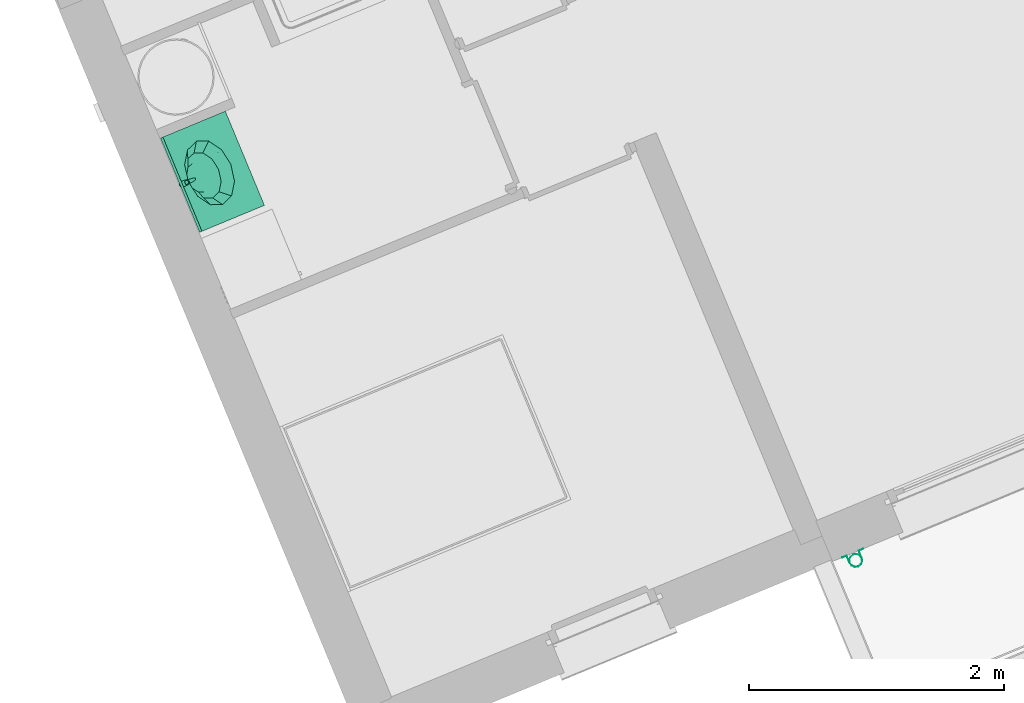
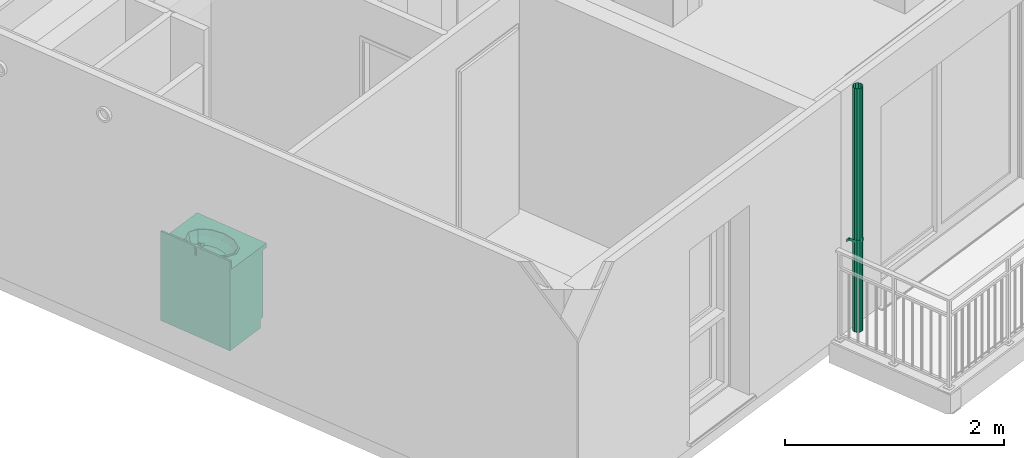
# One storey, part 65 of 90: 2 flow terminals.
"""IFC2X3 building model written with IfcOpenShell, lengths in metres."""

from ifc_helpers import new_model, entity, si_unit, converted_unit, derived_unit, money_unit, direction, frame, origin_with_axes, place, context, subcontext, project, spatial, open_shell, faceted_brep, surface_model, source, transform, mapped, type_object, element, save


model = new_model("IFC2X3")

# Units and contexts
model_context = context("Model", 3, precision=1e-05, world=origin_with_axes(), true_north=direction((0.0, 1.0)))
body_context = subcontext(model_context, "Body", "Model", "MODEL_VIEW")
ifc_project = project(units=[si_unit("LENGTHUNIT", "METRE"), si_unit("AREAUNIT", "SQUARE_METRE"), si_unit("VOLUMEUNIT", "CUBIC_METRE"), converted_unit("PLANEANGLEUNIT", "DEGREE", entity("IfcPlaneAngleMeasure", 0.0174532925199), si_unit("PLANEANGLEUNIT", "RADIAN"), dimensions=[0, 0, 0, 0, 0, 0, 0]), si_unit("SOLIDANGLEUNIT", "STERADIAN"), money_unit("EUR"), converted_unit("TIMEUNIT", "Year", entity("IfcTimeMeasure", 31556926.0), si_unit("TIMEUNIT", "SECOND"), dimensions=[0, 0, 1, 0, 0, 0, 0]), si_unit("MASSUNIT", "GRAM", prefix="KILO"), si_unit("THERMODYNAMICTEMPERATUREUNIT", "DEGREE_CELSIUS"), si_unit("LUMINOUSINTENSITYUNIT", "LUMEN"), si_unit("ENERGYUNIT", "JOULE", prefix="MEGA"), derived_unit("THERMALCONDUCTANCEUNIT", [(si_unit("POWERUNIT", "WATT"), 1), (si_unit("LENGTHUNIT", "METRE"), -1), (si_unit("THERMODYNAMICTEMPERATUREUNIT", "KELVIN"), -1)]), derived_unit("SPECIFICHEATCAPACITYUNIT", [(si_unit("ENERGYUNIT", "JOULE"), 1), (si_unit("MASSUNIT", "GRAM", prefix="KILO"), -1), (si_unit("THERMODYNAMICTEMPERATUREUNIT", "KELVIN"), -1)]), derived_unit("MASSDENSITYUNIT", [(si_unit("MASSUNIT", "GRAM", prefix="KILO"), 1), (si_unit("VOLUMEUNIT", "CUBIC_METRE"), -1)])], contexts=[model_context])

# Site, building, storey
site_placement = place(None, origin_with_axes())
site = spatial("IfcSite", under=ifc_project, at=site_placement, Name="Site", CompositionType="ELEMENT")
building_placement = place(site_placement, origin_with_axes())
building = spatial("IfcBuilding", under=site, at=building_placement, Name="Bâtiment", CompositionType="ELEMENT")
storey_placement = place(building_placement, frame((0.0, 0.0, 2.72), z_axis=(0.0, 0.0, 1.0), x_axis=(1.0, 0.0, 0.0)))
storey = spatial("IfcBuildingStorey", under=building, at=storey_placement, Name="R+1", CompositionType="ELEMENT", Elevation=2.72)

# Flow terminals
sanitary_terminal_type = type_object("IfcSanitaryTerminalType", Name="Lavabo sur meuble 23", PredefinedType="NOTDEFINED")
shared_shape_1 = source(origin_with_axes(), body_context, "Body", "SurfaceModel", [
    faceted_brep([(0.0, 0.09, 0.0), (0.8, 0.09, 0.0), (0.8, 0.09, 0.1), (0.0, 0.09, 0.1), (0.0, 0.55, 0.0), (0.8, 0.55, 0.0), (0.8, 0.55, 0.1), (0.0, 0.55, 0.1)], [[[0, 1, 2, 3]], [[0, 4, 5, 1]], [[1, 5, 6, 2]], [[3, 2, 6, 7]], [[4, 0, 3, 7]], [[5, 4, 7, 6]]]),
    faceted_brep([(0.0, 0.07, 0.1), (0.02, 0.07, 0.1), (0.02, 0.07, 0.12), (0.0, 0.07, 0.12), (0.0, 0.55, 0.1), (0.02, 0.55, 0.1), (0.78, 0.55, 0.1), (0.8, 0.55, 0.1), (0.8, 0.07, 0.1), (0.78, 0.07, 0.1), (0.78, 0.07, 0.12), (0.8, 0.07, 0.12), (0.8, 0.55, 0.12), (0.78, 0.55, 0.12), (0.02, 0.55, 0.12), (0.0, 0.55, 0.12)], [[[0, 1, 2, 3]], [[0, 4, 5, 6, 7, 8, 9, 1]], [[1, 9, 10, 2]], [[3, 2, 10, 11, 12, 13, 14, 15]], [[4, 0, 3, 15]], [[5, 4, 15, 14]], [[6, 5, 14, 13]], [[7, 6, 13, 12]], [[8, 7, 12, 11]], [[9, 8, 11, 10]]]),
    faceted_brep([(0.0, 0.07, 0.12), (0.02, 0.07, 0.12), (0.02, 0.07, 0.85), (0.0, 0.07, 0.85), (0.0, 0.55, 0.12), (0.8, 0.55, 0.12), (0.8, 0.07, 0.12), (0.78, 0.07, 0.12), (0.78, 0.53, 0.12), (0.02, 0.53, 0.12), (0.02, 0.53, 0.85), (0.78, 0.53, 0.85), (0.78, 0.07, 0.85), (0.8, 0.07, 0.85), (0.8, 0.55, 0.85), (0.0, 0.55, 0.85)], [[[0, 1, 2, 3]], [[0, 4, 5, 6, 7, 8, 9, 1]], [[1, 9, 10, 2]], [[3, 2, 10, 11, 12, 13, 14, 15]], [[4, 0, 3, 15]], [[5, 4, 15, 14]], [[6, 5, 14, 13]], [[7, 6, 13, 12]], [[8, 7, 12, 11]], [[9, 8, 11, 10]]]),
    faceted_brep([(0.78, 0.07, 0.323333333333), (0.78, 0.53, 0.323333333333), (0.78, 0.53, 0.343333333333), (0.78, 0.07, 0.343333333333), (0.02, 0.07, 0.323333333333), (0.02, 0.53, 0.323333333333), (0.02, 0.53, 0.343333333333), (0.02, 0.07, 0.343333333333)], [[[0, 1, 2, 3]], [[0, 4, 5, 1]], [[1, 5, 6, 2]], [[3, 2, 6, 7]], [[4, 0, 3, 7]], [[5, 4, 7, 6]]]),
    faceted_brep([(0.78, 0.07, 0.566666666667), (0.78, 0.53, 0.566666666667), (0.78, 0.53, 0.586666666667), (0.78, 0.07, 0.586666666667), (0.02, 0.07, 0.566666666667), (0.02, 0.53, 0.566666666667), (0.02, 0.53, 0.586666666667), (0.02, 0.07, 0.586666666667)], [[[0, 1, 2, 3]], [[0, 4, 5, 1]], [[1, 5, 6, 2]], [[3, 2, 6, 7]], [[4, 0, 3, 7]], [[5, 4, 7, 6]]]),
    faceted_brep([(0.0, 0.55, 0.85), (0.8, 0.55, 0.85), (0.8, 0.0, 0.85), (0.0, 0.0, 0.85), (0.535, 0.144115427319, 0.85), (0.633826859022, 0.21, 0.85), (0.67, 0.3, 0.85), (0.633826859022, 0.39, 0.85), (0.535, 0.455884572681, 0.85), (0.4, 0.48, 0.85), (0.265, 0.455884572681, 0.85), (0.166173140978, 0.39, 0.85), (0.13, 0.3, 0.85), (0.166173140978, 0.21, 0.85), (0.265, 0.144115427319, 0.85), (0.4, 0.12, 0.85), (0.0, 0.55, 0.9), (0.8, 0.55, 0.9), (0.8, 0.0, 0.9), (0.0, 0.0, 0.9), (0.535, 0.144115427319, 0.9), (0.633826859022, 0.21, 0.9), (0.67, 0.3, 0.9), (0.633826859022, 0.39, 0.9), (0.535, 0.455884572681, 0.9), (0.4, 0.48, 0.9), (0.265, 0.455884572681, 0.9), (0.166173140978, 0.39, 0.9), (0.13, 0.3, 0.9), (0.166173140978, 0.21, 0.9), (0.265, 0.144115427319, 0.9), (0.4, 0.12, 0.9)], [[[0, 1, 2, 3], [4, 5, 6, 7, 8, 9, 10, 11, 12, 13, 14, 15]], [[0, 16, 17, 1]], [[1, 17, 18, 2]], [[2, 18, 19, 3]], [[3, 19, 16, 0]], [[20, 21, 5, 4]], [[21, 22, 6, 5]], [[22, 23, 7, 6]], [[23, 24, 8, 7]], [[24, 25, 9, 8]], [[25, 26, 10, 9]], [[26, 27, 11, 10]], [[27, 28, 12, 11]], [[28, 29, 13, 12]], [[29, 30, 14, 13]], [[30, 31, 15, 14]], [[31, 20, 4, 15]], [[18, 17, 16, 19], [24, 23, 22, 21, 20, 31, 30, 29, 28, 27, 26, 25]]]),
    faceted_brep([(0.0, 0.53, 0.9), (0.8, 0.53, 0.9), (0.8, 0.53, 1.0), (0.0, 0.53, 1.0), (0.0, 0.55, 0.9), (0.8, 0.55, 0.9), (0.8, 0.55, 1.0), (0.0, 0.55, 1.0)], [[[0, 1, 2, 3]], [[0, 4, 5, 1]], [[1, 5, 6, 2]], [[3, 2, 6, 7]], [[4, 0, 3, 7]], [[5, 4, 7, 6]]]),
    faceted_brep([(0.689, 0.3, 0.905), (0.689, 0.3, 0.9), (0.650281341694, 0.396691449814, 0.9), (0.650281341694, 0.396691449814, 0.905), (0.650281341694, 0.203308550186, 0.905), (0.650281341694, 0.203308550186, 0.9), (0.5445, 0.132525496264, 0.9), (0.4, 0.106617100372, 0.9), (0.2555, 0.132525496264, 0.9), (0.149718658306, 0.203308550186, 0.9), (0.111, 0.3, 0.9), (0.149718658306, 0.396691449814, 0.9), (0.2555, 0.467474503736, 0.9), (0.4, 0.493382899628, 0.9), (0.5445, 0.467474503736, 0.9), (0.669, 0.3, 0.9), (0.632960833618, 0.39, 0.9), (0.5345, 0.455884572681, 0.9), (0.4, 0.48, 0.9), (0.2655, 0.455884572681, 0.9), (0.167039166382, 0.39, 0.9), (0.131, 0.3, 0.9), (0.167039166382, 0.21, 0.9), (0.2655, 0.144115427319, 0.9), (0.4, 0.12, 0.9), (0.5345, 0.144115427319, 0.9), (0.632960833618, 0.21, 0.9), (0.5445, 0.467474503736, 0.905), (0.4, 0.493382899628, 0.905), (0.2555, 0.467474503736, 0.905), (0.149718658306, 0.396691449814, 0.905), (0.111, 0.3, 0.905), (0.149718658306, 0.203308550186, 0.905), (0.2555, 0.132525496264, 0.905), (0.4, 0.106617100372, 0.905), (0.5445, 0.132525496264, 0.905), (0.669, 0.3, 0.905), (0.632960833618, 0.21, 0.905), (0.5345, 0.144115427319, 0.905), (0.4, 0.12, 0.905), (0.2655, 0.144115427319, 0.905), (0.167039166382, 0.21, 0.905), (0.131, 0.3, 0.905), (0.167039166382, 0.39, 0.905), (0.2655, 0.455884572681, 0.905), (0.4, 0.48, 0.905), (0.5345, 0.455884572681, 0.905), (0.632960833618, 0.39, 0.905)], [[[0, 1, 2, 3]], [[4, 5, 1, 0]], [[1, 5, 6, 7, 8, 9, 10, 11, 12, 13, 14, 2], [15, 16, 17, 18, 19, 20, 21, 22, 23, 24, 25, 26]], [[3, 2, 14, 27]], [[0, 3, 27, 28, 29, 30, 31, 32, 33, 34, 35, 4], [36, 37, 38, 39, 40, 41, 42, 43, 44, 45, 46, 47]], [[35, 6, 5, 4]], [[34, 7, 6, 35]], [[33, 8, 7, 34]], [[32, 9, 8, 33]], [[31, 10, 9, 32]], [[30, 11, 10, 31]], [[29, 12, 11, 30]], [[28, 13, 12, 29]], [[27, 14, 13, 28]], [[47, 16, 15, 36]], [[46, 17, 16, 47]], [[45, 18, 17, 46]], [[44, 19, 18, 45]], [[43, 20, 19, 44]], [[42, 21, 20, 43]], [[41, 22, 21, 42]], [[40, 23, 22, 41]], [[39, 24, 23, 40]], [[38, 25, 24, 39]], [[37, 26, 25, 38]], [[36, 15, 26, 37]]]),
    surface_model("IfcShellBasedSurfaceModel", [(0.4, 0.48, 0.9), (0.4, 0.48, 0.848), (0.52105, 0.458296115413, 0.848), (0.5345, 0.455884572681, 0.9), (0.2655, 0.455884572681, 0.9), (0.27895, 0.458296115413, 0.848), (0.609664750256, 0.399, 0.848), (0.632960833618, 0.39, 0.9), (0.167039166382, 0.39, 0.9), (0.190335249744, 0.399, 0.848), (0.6421, 0.318, 0.848), (0.669, 0.3, 0.9), (0.131, 0.3, 0.9), (0.1579, 0.318, 0.848), (0.609664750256, 0.237, 0.848), (0.632960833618, 0.21, 0.9), (0.167039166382, 0.21, 0.9), (0.190335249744, 0.237, 0.848), (0.52105, 0.177703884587, 0.848), (0.5345, 0.144115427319, 0.9), (0.2655, 0.144115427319, 0.9), (0.27895, 0.177703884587, 0.848), (0.4, 0.156, 0.848), (0.4, 0.12, 0.9)], [open_shell([[[0, 1, 2, 3]], [[4, 5, 1, 0]], [[3, 2, 6, 7]], [[8, 9, 5, 4]], [[7, 6, 10, 11]], [[12, 13, 9, 8]], [[11, 10, 14, 15]], [[16, 17, 13, 12]], [[15, 14, 18, 19]], [[20, 21, 17, 16]], [[19, 18, 22, 23]], [[23, 22, 21, 20]]])]),
    surface_model("IfcShellBasedSurfaceModel", [(0.4, 0.48, 0.848), (0.4, 0.48, 0.796), (0.4956295, 0.462853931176, 0.796), (0.52105, 0.458296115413, 0.848), (0.27895, 0.458296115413, 0.848), (0.3043705, 0.462853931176, 0.796), (0.565635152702, 0.41601, 0.796), (0.609664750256, 0.399, 0.848), (0.190335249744, 0.399, 0.848), (0.234364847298, 0.41601, 0.796), (0.591259, 0.35202, 0.796), (0.6421, 0.318, 0.848), (0.1579, 0.318, 0.848), (0.208741, 0.35202, 0.796), (0.565635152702, 0.28803, 0.796), (0.609664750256, 0.237, 0.848), (0.190335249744, 0.237, 0.848), (0.234364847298, 0.28803, 0.796), (0.4956295, 0.241186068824, 0.796), (0.52105, 0.177703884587, 0.848), (0.27895, 0.177703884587, 0.848), (0.3043705, 0.241186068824, 0.796), (0.4, 0.22404, 0.796), (0.4, 0.156, 0.848)], [open_shell([[[0, 1, 2, 3]], [[4, 5, 1, 0]], [[3, 2, 6, 7]], [[8, 9, 5, 4]], [[7, 6, 10, 11]], [[12, 13, 9, 8]], [[11, 10, 14, 15]], [[16, 17, 13, 12]], [[15, 14, 18, 19]], [[20, 21, 17, 16]], [[19, 18, 22, 23]], [[23, 22, 21, 20]]])]),
    surface_model("IfcShellBasedSurfaceModel", [(0.4, 0.48, 0.796), (0.4, 0.48, 0.77), (0.460246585, 0.469197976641, 0.77), (0.4956295, 0.462853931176, 0.796), (0.3043705, 0.462853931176, 0.796), (0.339753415, 0.469197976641, 0.77), (0.504350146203, 0.4396863, 0.77), (0.565635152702, 0.41601, 0.796), (0.234364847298, 0.41601, 0.796), (0.295649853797, 0.4396863, 0.77), (0.52049317, 0.3993726, 0.77), (0.591259, 0.35202, 0.796), (0.208741, 0.35202, 0.796), (0.27950683, 0.3993726, 0.77), (0.504350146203, 0.3590589, 0.77), (0.565635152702, 0.28803, 0.796), (0.234364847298, 0.28803, 0.796), (0.295649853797, 0.3590589, 0.77), (0.460246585, 0.329547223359, 0.77), (0.4956295, 0.241186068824, 0.796), (0.3043705, 0.241186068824, 0.796), (0.339753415, 0.329547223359, 0.77), (0.4, 0.3187452, 0.77), (0.4, 0.22404, 0.796)], [open_shell([[[0, 1, 2, 3]], [[4, 5, 1, 0]], [[3, 2, 6, 7]], [[8, 9, 5, 4]], [[7, 6, 10, 11]], [[12, 13, 9, 8]], [[11, 10, 14, 15]], [[16, 17, 13, 12]], [[15, 14, 18, 19]], [[20, 21, 17, 16]], [[19, 18, 22, 23]], [[23, 22, 21, 20]]])]),
    surface_model("IfcShellBasedSurfaceModel", [(0.4, 0.48, 0.77), (0.415, 0.425353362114, 0.763), (0.460246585, 0.469197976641, 0.77), (0.4, 0.4293726, 0.763), (0.425980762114, 0.4143726, 0.763), (0.339753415, 0.469197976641, 0.77), (0.504350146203, 0.4396863, 0.77), (0.385, 0.425353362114, 0.763), (0.43, 0.3993726, 0.763), (0.295649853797, 0.4396863, 0.77), (0.52049317, 0.3993726, 0.77), (0.374019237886, 0.4143726, 0.763), (0.425980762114, 0.3843726, 0.763), (0.27950683, 0.3993726, 0.77), (0.504350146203, 0.3590589, 0.77), (0.37, 0.3993726, 0.763), (0.415, 0.373391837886, 0.763), (0.295649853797, 0.3590589, 0.77), (0.460246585, 0.329547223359, 0.77), (0.374019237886, 0.3843726, 0.763), (0.4, 0.3693726, 0.763), (0.339753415, 0.329547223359, 0.77), (0.4, 0.3187452, 0.77), (0.385, 0.373391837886, 0.763)], [open_shell([[[0, 1, 2]], [[0, 3, 1]], [[2, 1, 4]], [[5, 3, 0]], [[2, 4, 6]], [[5, 7, 3]], [[6, 4, 8]], [[9, 7, 5]], [[6, 8, 10]], [[9, 11, 7]], [[10, 8, 12]], [[13, 11, 9]], [[10, 12, 14]], [[13, 15, 11]], [[14, 12, 16]], [[17, 15, 13]], [[14, 16, 18]], [[17, 19, 15]], [[18, 16, 20]], [[21, 19, 17]], [[18, 20, 22]], [[21, 23, 19]], [[22, 20, 23]], [[22, 23, 21]]])]),
    surface_model("IfcShellBasedSurfaceModel", [(0.43, 0.3993726, 0.763), (0.43, 0.3993726, 0.758), (0.425980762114, 0.4143726, 0.758), (0.425980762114, 0.4143726, 0.763), (0.425980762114, 0.3843726, 0.763), (0.425980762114, 0.3843726, 0.758), (0.415, 0.373391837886, 0.758), (0.4, 0.3693726, 0.758), (0.385, 0.373391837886, 0.758), (0.374019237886, 0.3843726, 0.758), (0.37, 0.3993726, 0.758), (0.374019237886, 0.4143726, 0.758), (0.385, 0.425353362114, 0.758), (0.4, 0.4293726, 0.758), (0.415, 0.425353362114, 0.758), (0.415, 0.425353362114, 0.763), (0.415, 0.373391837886, 0.763), (0.4, 0.3693726, 0.763), (0.385, 0.373391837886, 0.763), (0.374019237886, 0.3843726, 0.763), (0.37, 0.3993726, 0.763), (0.374019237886, 0.4143726, 0.763), (0.385, 0.425353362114, 0.763), (0.4, 0.4293726, 0.763)], [open_shell([[[0, 1, 2, 3]], [[4, 5, 1, 0]], [[1, 5, 6, 7, 8, 9, 10, 11, 12, 13, 14, 2]], [[3, 2, 14, 15]], [[16, 6, 5, 4]], [[17, 7, 6, 16]], [[18, 8, 7, 17]], [[19, 9, 8, 18]], [[20, 10, 9, 19]], [[21, 11, 10, 20]], [[22, 12, 11, 21]], [[23, 13, 12, 22]], [[15, 14, 13, 23]]])]),
    faceted_brep([(0.4125, 0.554150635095, 0.9), (0.4, 0.5575, 0.9), (0.4, 0.553701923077, 0.975961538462), (0.410587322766, 0.550837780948, 0.976507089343), (0.421650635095, 0.545, 0.9), (0.425, 0.5325, 0.9), (0.421650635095, 0.52, 0.9), (0.4125, 0.510849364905, 0.9), (0.4, 0.5075, 0.9), (0.3875, 0.510849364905, 0.9), (0.378349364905, 0.52, 0.9), (0.375, 0.5325, 0.9), (0.378349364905, 0.545, 0.9), (0.3875, 0.554150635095, 0.9), (0.389412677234, 0.550837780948, 0.976507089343), (0.381726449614, 0.543050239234, 0.977990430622), (0.379, 0.5325, 0.98), (0.381899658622, 0.522049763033, 0.981990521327), (0.389585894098, 0.514462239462, 0.983435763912), (0.4, 0.511698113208, 0.983962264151), (0.410414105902, 0.514462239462, 0.983435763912), (0.418100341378, 0.522049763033, 0.981990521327), (0.421, 0.5325, 0.98), (0.418273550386, 0.543050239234, 0.977990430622)], [[[0, 1, 2, 3]], [[0, 4, 5, 6, 7, 8, 9, 10, 11, 12, 13, 1]], [[1, 13, 14, 2]], [[3, 2, 14, 15, 16, 17, 18, 19, 20, 21, 22, 23]], [[4, 0, 3, 23]], [[5, 4, 23, 22]], [[6, 5, 22, 21]], [[7, 6, 21, 20]], [[8, 7, 20, 19]], [[9, 8, 19, 18]], [[10, 9, 18, 17]], [[11, 10, 17, 16]], [[12, 11, 16, 15]], [[13, 12, 15, 14]]]),
    faceted_brep([(0.409, 0.4295, 0.935), (0.407794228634, 0.434, 0.935), (0.407794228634, 0.434, 0.945), (0.409, 0.4295, 0.945), (0.407794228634, 0.425, 0.935), (0.4045, 0.421705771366, 0.935), (0.4, 0.4205, 0.935), (0.3955, 0.421705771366, 0.935), (0.392205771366, 0.425, 0.935), (0.391, 0.4295, 0.935), (0.392205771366, 0.434, 0.935), (0.3955, 0.437294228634, 0.935), (0.4, 0.4385, 0.935), (0.4045, 0.437294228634, 0.935), (0.4045, 0.437294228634, 0.945), (0.4, 0.4385, 0.945), (0.3955, 0.437294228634, 0.945), (0.392205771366, 0.434, 0.945), (0.391, 0.4295, 0.945), (0.392205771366, 0.425, 0.945), (0.3955, 0.421705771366, 0.945), (0.4, 0.4205, 0.945), (0.4045, 0.421705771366, 0.945), (0.407794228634, 0.425, 0.945)], [[[0, 1, 2, 3]], [[0, 4, 5, 6, 7, 8, 9, 10, 11, 12, 13, 1]], [[1, 13, 14, 2]], [[3, 2, 14, 15, 16, 17, 18, 19, 20, 21, 22, 23]], [[4, 0, 3, 23]], [[5, 4, 23, 22]], [[6, 5, 22, 21]], [[7, 6, 21, 20]], [[8, 7, 20, 19]], [[9, 8, 19, 18]], [[10, 9, 18, 17]], [[11, 10, 17, 16]], [[12, 11, 16, 15]], [[13, 12, 15, 14]]]),
    faceted_brep([(0.387128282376, 0.552756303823, 0.96), (0.378272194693, 0.54269320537, 0.96), (0.3761946, 0.5294501, 0.96), (0.389088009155, 0.428111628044, 0.96), (0.390971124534, 0.423216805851, 0.96), (0.394906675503, 0.419750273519, 0.96), (0.400000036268, 0.41850003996, 0.96), (0.405093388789, 0.419750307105, 0.96), (0.409028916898, 0.423216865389, 0.96), (0.410912, 0.4281117, 0.96), (0.423805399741, 0.529450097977, 0.96), (0.421727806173, 0.542693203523, 0.96), (0.412871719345, 0.552756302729, 0.96), (0.40000000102, 0.556499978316, 0.96), (0.411, 0.551552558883, 0.96), (0.419052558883, 0.5435, 0.96), (0.422, 0.5325, 0.96), (0.419052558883, 0.5215, 0.96), (0.411, 0.513447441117, 0.96), (0.4, 0.5105, 0.96), (0.389, 0.513447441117, 0.96), (0.380947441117, 0.5215, 0.96), (0.378, 0.5325, 0.96), (0.380947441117, 0.5435, 0.96), (0.389, 0.551552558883, 0.96), (0.4, 0.5545, 0.96), (0.378272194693, 0.54269320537, 0.945), (0.387128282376, 0.552756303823, 0.945), (0.3761946, 0.5294501, 0.945), (0.389088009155, 0.428111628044, 0.945), (0.390971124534, 0.423216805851, 0.945), (0.394906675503, 0.419750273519, 0.945), (0.400000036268, 0.41850003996, 0.945), (0.405093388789, 0.419750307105, 0.945), (0.409028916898, 0.423216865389, 0.945), (0.410912, 0.4281117, 0.945), (0.423805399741, 0.529450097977, 0.945), (0.421727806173, 0.542693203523, 0.945), (0.412871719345, 0.552756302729, 0.945), (0.40000000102, 0.556499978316, 0.945), (0.411375, 0.552202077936, 0.945), (0.419702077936, 0.543875, 0.945), (0.42275, 0.5325, 0.945), (0.419702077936, 0.521125, 0.945), (0.411375, 0.512797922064, 0.945), (0.4, 0.50975, 0.945), (0.388625, 0.512797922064, 0.945), (0.380297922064, 0.521125, 0.945), (0.37725, 0.5325, 0.945), (0.380297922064, 0.543875, 0.945), (0.388625, 0.552202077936, 0.945), (0.4, 0.55525, 0.945)], [[[0, 1, 2, 3, 4, 5, 6, 7, 8, 9, 10, 11, 12, 13], [14, 15, 16, 17, 18, 19, 20, 21, 22, 23, 24, 25]], [[26, 1, 0, 27]], [[28, 2, 1, 26]], [[29, 3, 2, 28]], [[30, 4, 3, 29]], [[31, 5, 4, 30]], [[32, 6, 5, 31]], [[33, 7, 6, 32]], [[34, 8, 7, 33]], [[35, 9, 8, 34]], [[36, 10, 9, 35]], [[37, 11, 10, 36]], [[38, 12, 11, 37]], [[39, 13, 12, 38]], [[27, 0, 13, 39]], [[40, 41, 15, 14]], [[41, 42, 16, 15]], [[42, 43, 17, 16]], [[43, 44, 18, 17]], [[44, 45, 19, 18]], [[20, 19, 45, 46]], [[21, 20, 46, 47]], [[22, 21, 47, 48]], [[23, 22, 48, 49]], [[24, 23, 49, 50]], [[50, 51, 25, 24]], [[51, 40, 14, 25]], [[32, 31, 30, 29, 28, 26, 27, 39, 38, 37, 36, 35, 34, 33], [44, 43, 42, 41, 40, 51, 50, 49, 48, 47, 46, 45]]]),
    faceted_brep([(0.423893, 0.53080743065, 0.980322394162), (0.421296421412, 0.543274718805, 0.977947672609), (0.421296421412, 0.544023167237, 0.981877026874), (0.423893, 0.531555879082, 0.984251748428), (0.420945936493, 0.490663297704, 0.987968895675), (0.417663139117, 0.480985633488, 0.989812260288), (0.410061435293, 0.474036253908, 0.991135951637), (0.399999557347, 0.47151438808, 0.991616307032), (0.389937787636, 0.474036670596, 0.991135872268), (0.382336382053, 0.480986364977, 0.989812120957), (0.379054, 0.490664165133, 0.987968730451), (0.376106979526, 0.530807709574, 0.980322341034), (0.378703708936, 0.543274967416, 0.977947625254), (0.38752831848, 0.552591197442, 0.976173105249), (0.400000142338, 0.556031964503, 0.975517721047), (0.41247192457, 0.552591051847, 0.976173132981), (0.414, 0.506959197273, 0.984864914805), (0.386, 0.506959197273, 0.984864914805), (0.386, 0.492143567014, 0.987686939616), (0.387875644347, 0.485267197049, 0.988996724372), (0.393, 0.480233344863, 0.989955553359), (0.4, 0.478390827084, 0.990306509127), (0.407, 0.480233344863, 0.989955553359), (0.412124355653, 0.485267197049, 0.988996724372), (0.414, 0.492143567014, 0.987686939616), (0.41247192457, 0.553339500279, 0.980102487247), (0.400000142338, 0.556780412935, 0.979447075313), (0.38752831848, 0.553339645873, 0.980102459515), (0.378703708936, 0.544023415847, 0.98187697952), (0.376106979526, 0.531556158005, 0.984251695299), (0.379054, 0.491412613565, 0.991898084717), (0.382336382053, 0.481734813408, 0.993741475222), (0.389937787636, 0.474785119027, 0.995065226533), (0.399999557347, 0.472262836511, 0.995545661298), (0.410061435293, 0.47478470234, 0.995065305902), (0.417663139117, 0.48173408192, 0.993741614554), (0.420945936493, 0.491411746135, 0.991898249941), (0.414, 0.507707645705, 0.988794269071), (0.414, 0.492892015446, 0.991616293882), (0.412124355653, 0.486015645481, 0.992926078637), (0.407, 0.480981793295, 0.993884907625), (0.4, 0.479139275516, 0.994235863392), (0.393, 0.480981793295, 0.993884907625), (0.387875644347, 0.486015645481, 0.992926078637), (0.386, 0.492892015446, 0.991616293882), (0.386, 0.507707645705, 0.988794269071)], [[[0, 1, 2, 3]], [[0, 4, 5, 6, 7, 8, 9, 10, 11, 12, 13, 14, 15, 1], [16, 17, 18, 19, 20, 21, 22, 23, 24]], [[1, 15, 25, 2]], [[3, 2, 25, 26, 27, 28, 29, 30, 31, 32, 33, 34, 35, 36], [37, 38, 39, 40, 41, 42, 43, 44, 45]], [[4, 0, 3, 36]], [[5, 4, 36, 35]], [[6, 5, 35, 34]], [[7, 6, 34, 33]], [[8, 7, 33, 32]], [[9, 8, 32, 31]], [[10, 9, 31, 30]], [[11, 10, 30, 29]], [[12, 11, 29, 28]], [[13, 12, 28, 27]], [[14, 13, 27, 26]], [[15, 14, 26, 25]], [[17, 16, 37, 45]], [[18, 17, 45, 44]], [[19, 18, 44, 43]], [[20, 19, 43, 42]], [[21, 20, 42, 41]], [[22, 21, 41, 40]], [[23, 22, 40, 39]], [[24, 23, 39, 38]], [[16, 24, 38, 37]]]),
    faceted_brep([(0.0015, 0.07, 0.1015), (0.3985, 0.07, 0.1015), (0.3985, 0.05, 0.1015), (0.0015, 0.05, 0.1015), (0.0015, 0.07, 0.8485), (0.3985, 0.07, 0.8485), (0.3985, 0.05, 0.8485), (0.0015, 0.05, 0.8485)], [[[0, 1, 2, 3]], [[0, 4, 5, 1]], [[1, 5, 6, 2]], [[3, 2, 6, 7]], [[4, 0, 3, 7]], [[5, 4, 7, 6]]]),
    faceted_brep([(0.358892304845, 0.05, 0.7855), (0.3545, 0.05, 0.781107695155), (0.3485, 0.05, 0.7795), (0.3425, 0.05, 0.781107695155), (0.338107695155, 0.05, 0.7855), (0.3365, 0.05, 0.7915), (0.338107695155, 0.05, 0.7975), (0.3425, 0.05, 0.801892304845), (0.3485, 0.05, 0.8035), (0.3545, 0.05, 0.801892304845), (0.358892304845, 0.05, 0.7975), (0.3605, 0.05, 0.7915), (0.358892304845, 0.025, 0.7855), (0.3545, 0.025, 0.781107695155), (0.3485, 0.025, 0.7795), (0.3425, 0.025, 0.781107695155), (0.338107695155, 0.025, 0.7855), (0.3365, 0.025, 0.7915), (0.338107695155, 0.025, 0.7975), (0.3425, 0.025, 0.801892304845), (0.3485, 0.025, 0.8035), (0.3545, 0.025, 0.801892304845), (0.358892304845, 0.025, 0.7975), (0.3605, 0.025, 0.7915)], [[[0, 1, 2, 3, 4, 5, 6, 7, 8, 9, 10, 11]], [[1, 0, 12, 13]], [[2, 1, 13, 14]], [[3, 2, 14, 15]], [[4, 3, 15, 16]], [[5, 4, 16, 17]], [[6, 5, 17, 18]], [[7, 6, 18, 19]], [[8, 7, 19, 20]], [[9, 8, 20, 21]], [[10, 9, 21, 22]], [[11, 10, 22, 23]], [[0, 11, 23, 12]], [[12, 23, 22, 21, 20, 19, 18, 17, 16, 15, 14, 13]]]),
    faceted_brep([(0.7985, 0.07, 0.1015), (0.7985, 0.05, 0.1015), (0.4015, 0.05, 0.1015), (0.4015, 0.07, 0.1015), (0.7985, 0.07, 0.8485), (0.7985, 0.05, 0.8485), (0.4015, 0.05, 0.8485), (0.4015, 0.07, 0.8485)], [[[0, 1, 2, 3]], [[4, 5, 1, 0]], [[1, 5, 6, 2]], [[3, 2, 6, 7]], [[0, 3, 7, 4]], [[7, 6, 5, 4]]]),
    faceted_brep([(0.441107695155, 0.05, 0.7855), (0.4395, 0.05, 0.7915), (0.441107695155, 0.05, 0.7975), (0.4455, 0.05, 0.801892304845), (0.4515, 0.05, 0.8035), (0.4575, 0.05, 0.801892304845), (0.461892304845, 0.05, 0.7975), (0.4635, 0.05, 0.7915), (0.461892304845, 0.05, 0.7855), (0.4575, 0.05, 0.781107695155), (0.4515, 0.05, 0.7795), (0.4455, 0.05, 0.781107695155), (0.441107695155, 0.025, 0.7855), (0.4395, 0.025, 0.7915), (0.441107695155, 0.025, 0.7975), (0.4455, 0.025, 0.801892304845), (0.4515, 0.025, 0.8035), (0.4575, 0.025, 0.801892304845), (0.461892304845, 0.025, 0.7975), (0.4635, 0.025, 0.7915), (0.461892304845, 0.025, 0.7855), (0.4575, 0.025, 0.781107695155), (0.4515, 0.025, 0.7795), (0.4455, 0.025, 0.781107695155)], [[[0, 1, 2, 3, 4, 5, 6, 7, 8, 9, 10, 11]], [[0, 12, 13, 1]], [[1, 13, 14, 2]], [[2, 14, 15, 3]], [[3, 15, 16, 4]], [[4, 16, 17, 5]], [[5, 17, 18, 6]], [[6, 18, 19, 7]], [[7, 19, 20, 8]], [[8, 20, 21, 9]], [[9, 21, 22, 10]], [[10, 22, 23, 11]], [[11, 23, 12, 0]], [[12, 23, 22, 21, 20, 19, 18, 17, 16, 15, 14, 13]]]),
])
flow_terminal_1_placement = place(storey_placement, frame((-31.7928882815, -24.2861897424, 0.0), z_axis=(0.0, 0.0, 1.0), x_axis=(-0.38311254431, 0.923701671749, 0.0)))
element("IfcFlowTerminal", 1, at=flow_terminal_1_placement, inside=storey, type_object=sanitary_terminal_type, Name="MOB-002", ObjectType="SANITARY_TERMINAL", context=body_context, shape_type="MappedRepresentation", body=[
    mapped(shared_shape_1, transform((0.0, 0.0, 0.0))),
])
waste_terminal_type = type_object("IfcWasteTerminalType", Name="Tuyau descente 23", PredefinedType="GULLYTRAP")
shared_shape_2 = source(origin_with_axes(), body_context, "Body", "SurfaceModel", [
    surface_model("IfcShellBasedSurfaceModel", [(0.05, -0.0125, 2.7222918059), (0.0433012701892, -0.0375, 2.7222918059), (0.0433012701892, -0.0375, 0.0), (0.05, -0.0125, 0.0), (0.025, -0.0558012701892, 2.7222918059), (0.025, -0.0558012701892, 0.0), (0.0433012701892, 0.0125, 2.7222918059), (0.0433012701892, 0.0125, 0.0), (0.0, -0.0625, 2.7222918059), (0.0, -0.0625, 0.0), (0.025, 0.0308012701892, 2.7222918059), (0.025, 0.0308012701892, 0.0), (-0.025, -0.0558012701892, 2.7222918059), (-0.025, -0.0558012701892, 0.0), (0.0, 0.0375, 2.7222918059), (0.0, 0.0375, 0.0), (-0.0433012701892, -0.0375, 2.7222918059), (-0.0433012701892, -0.0375, 0.0), (-0.025, 0.0308012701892, 2.7222918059), (-0.025, 0.0308012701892, 0.0), (-0.05, -0.0125, 2.7222918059), (-0.05, -0.0125, 0.0), (-0.0433012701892, 0.0125, 2.7222918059), (-0.0433012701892, 0.0125, 0.0)], [open_shell([[[0, 1, 2, 3]], [[1, 4, 5, 2]], [[6, 0, 3, 7]], [[4, 8, 9, 5]], [[10, 6, 7, 11]], [[8, 12, 13, 9]], [[14, 10, 11, 15]], [[12, 16, 17, 13]], [[18, 14, 15, 19]], [[16, 20, 21, 17]], [[22, 18, 19, 23]], [[20, 22, 23, 21]]])]),
    faceted_brep([(-0.09, 0.0479, 1.0), (-0.052, 0.0479, 1.0), (-0.052, 0.0479, 1.03), (-0.09, 0.0479, 1.03), (-0.09, 0.0499, 1.0), (-0.0502, 0.0499, 1.0), (-0.0502, -0.0126, 1.0), (-0.04347447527, -0.0377, 1.0), (-0.0251, -0.05607447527, 1.0), (0.0, -0.0628, 1.0), (0.0251, -0.05607447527, 1.0), (0.04347447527, -0.0377, 1.0), (0.0502, -0.0126, 1.0), (0.0502, 0.0499, 1.0), (0.09, 0.0499, 1.0), (0.09, 0.0479, 1.0), (0.052, 0.0479, 1.0), (0.052, -0.0126, 1.0), (0.0450333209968, -0.0386, 1.0), (0.026, -0.0576333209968, 1.0), (0.0, -0.0646, 1.0), (-0.026, -0.0576333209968, 1.0), (-0.0450333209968, -0.0386, 1.0), (-0.052, -0.0126, 1.0), (-0.052, -0.0126, 1.03), (-0.0450333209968, -0.0386, 1.03), (-0.026, -0.0576333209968, 1.03), (0.0, -0.0646, 1.03), (0.026, -0.0576333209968, 1.03), (0.0450333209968, -0.0386, 1.03), (0.052, -0.0126, 1.03), (0.052, 0.0479, 1.03), (0.09, 0.0479, 1.03), (0.09, 0.0499, 1.03), (0.0502, 0.0499, 1.03), (0.0502, -0.0126, 1.03), (0.04347447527, -0.0377, 1.03), (0.0251, -0.05607447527, 1.03), (0.0, -0.0628, 1.03), (-0.0251, -0.05607447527, 1.03), (-0.04347447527, -0.0377, 1.03), (-0.0502, -0.0126, 1.03), (-0.0502, 0.0499, 1.03), (-0.09, 0.0499, 1.03)], [[[0, 1, 2, 3]], [[0, 4, 5, 6, 7, 8, 9, 10, 11, 12, 13, 14, 15, 16, 17, 18, 19, 20, 21, 22, 23, 1]], [[1, 23, 24, 2]], [[3, 2, 24, 25, 26, 27, 28, 29, 30, 31, 32, 33, 34, 35, 36, 37, 38, 39, 40, 41, 42, 43]], [[4, 0, 3, 43]], [[5, 4, 43, 42]], [[6, 5, 42, 41]], [[7, 6, 41, 40]], [[8, 7, 40, 39]], [[9, 8, 39, 38]], [[10, 9, 38, 37]], [[11, 10, 37, 36]], [[12, 11, 36, 35]], [[13, 12, 35, 34]], [[14, 13, 34, 33]], [[15, 14, 33, 32]], [[16, 15, 32, 31]], [[17, 16, 31, 30]], [[18, 17, 30, 29]], [[19, 18, 29, 28]], [[20, 19, 28, 27]], [[21, 20, 27, 26]], [[22, 21, 26, 25]], [[23, 22, 25, 24]]]),
])
flow_terminal_2_placement = place(storey_placement, frame((-27.1595703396, -27.0593437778, 0.0), z_axis=(0.0, 0.0, 1.0), x_axis=(0.923701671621, 0.383112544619, 0.0)))
element("IfcFlowTerminal", 2, at=flow_terminal_2_placement, inside=storey, type_object=waste_terminal_type, Name="MOB-006", context=body_context, shape_type="MappedRepresentation", body=[
    mapped(shared_shape_2, transform((0.0, 0.0, 0.0))),
])

save(model, "model.ifc")
